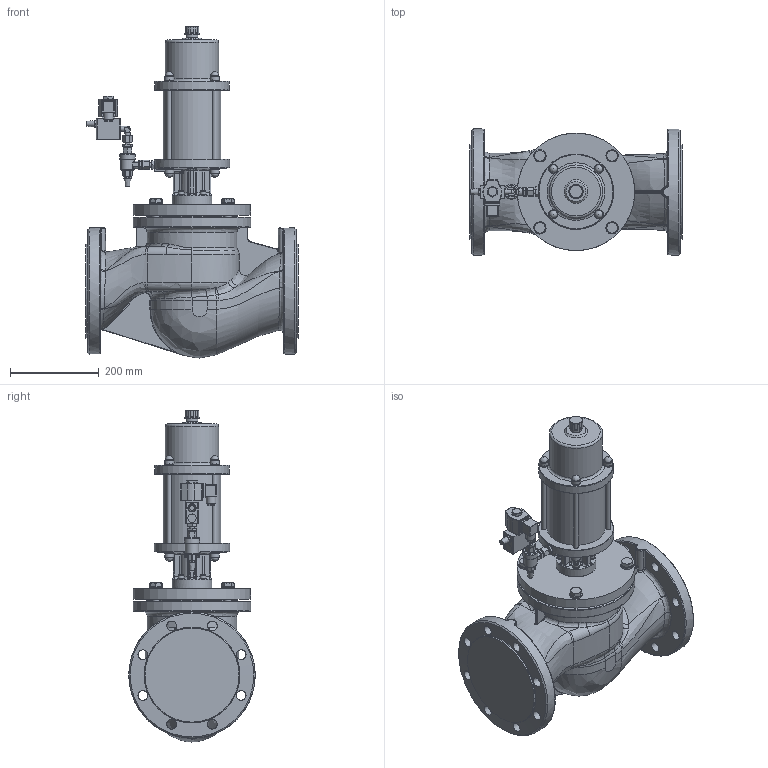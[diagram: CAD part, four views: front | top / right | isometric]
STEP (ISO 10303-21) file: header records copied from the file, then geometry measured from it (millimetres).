
FILE_DESCRIPTION((''),'2;1');
FILE_NAME('G:\CAD-Download\EPVA\1-4-EPVA\DN 150\1-4-EPVA 150-4.00.32.stp','2010-02-10T14:11:47',('hb'),(''),'Autodesk Inventor 2008','Autodesk Inventor 2008','');
FILE_SCHEMA(('AUTOMOTIVE_DESIGN { 1 0 10303 214 1 1 1 1 }'));
Length unit declared in the file: millimetre
Products named in the file (1): 1-4-EPVA 150-4.00
Bounding box: 480 x 285 x 749.05 mm (x, y, z)
Volume: 24797448.2 mm3; surface area: 1058369.6 mm2
Topology: 1 solids, 1 shells, 1211 faces, 3054 edges, 1873 vertices
Faces by surface type: plane 438, bspline 331, cylinder 273, cone 109, torus 39, sphere 21
Full cylindrical faces by diameter (mm): 8 x4, 10 x14, 11.405 x1, 11.445 x1, 13 x4, 14 x1, 14.376 x1, 16 x9, 19 x3, 19.3 x4, 20.15 x2, 20.8 x4, 21.5 x1, 22 x8, 22.49 x4, 26.6 x1, 30 x1, 32.2 x1, 34 x1, 50 x1, 90 x1, 120 x1, 130 x1, 169 x1, 170 x1, 194.5 x1, 202.8 x1, 265 x2, 285 x1
Entity records: 63511 total; most frequent: CARTESIAN_POINT 36571, ORIENTED_EDGE 5458, DIRECTION 4869, EDGE_CURVE 2729, AXIS2_PLACEMENT_3D 1964, VERTEX_POINT 1762, EDGE_LOOP 1550, FACE_OUTER_BOUND 1210
